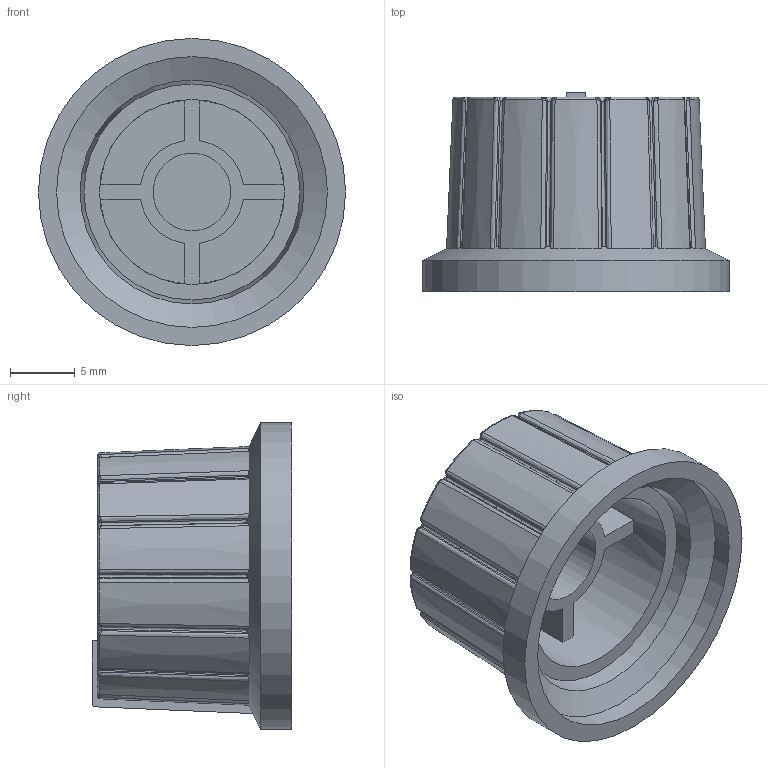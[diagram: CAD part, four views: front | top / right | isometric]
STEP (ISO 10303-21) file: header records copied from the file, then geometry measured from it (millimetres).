
FILE_DESCRIPTION(('FreeCAD Model'),'2;1');
FILE_NAME('Open CASCADE Shape Model','2023-05-06T18:44:57',('Author'),( ''),'Open CASCADE STEP processor 7.5','FreeCAD','Unknown');
FILE_SCHEMA(('AUTOMOTIVE_DESIGN { 1 0 10303 214 1 1 1 1 }'));
Length unit declared in the file: millimetre
Products named in the file (1): handle 012015
Bounding box: 23.7 x 15.41 x 23.7 mm (x, y, z)
Volume: 2587 mm3; surface area: 4219.2 mm2
Topology: 3 solids, 3 shells, 243 faces, 615 edges, 355 vertices
Faces by surface type: bspline 110, plane 62, cylinder 37, cone 19, torus 15
Full cylindrical faces by diameter (mm): 6 x1, 14.266 x1, 20.9 x1, 23.7 x1
Entity records: 11165 total; most frequent: CARTESIAN_POINT 3959, ORIENTED_EDGE 1158, DIRECTION 736, EDGE_CURVE 579, VERTEX_POINT 353, AXIS2_PLACEMENT_3D 292, B_SPLINE_CURVE_WITH_KNOTS 269, EDGE_LOOP 254
